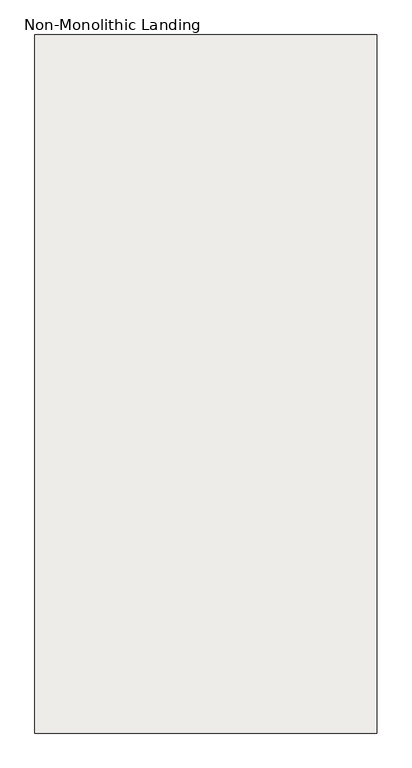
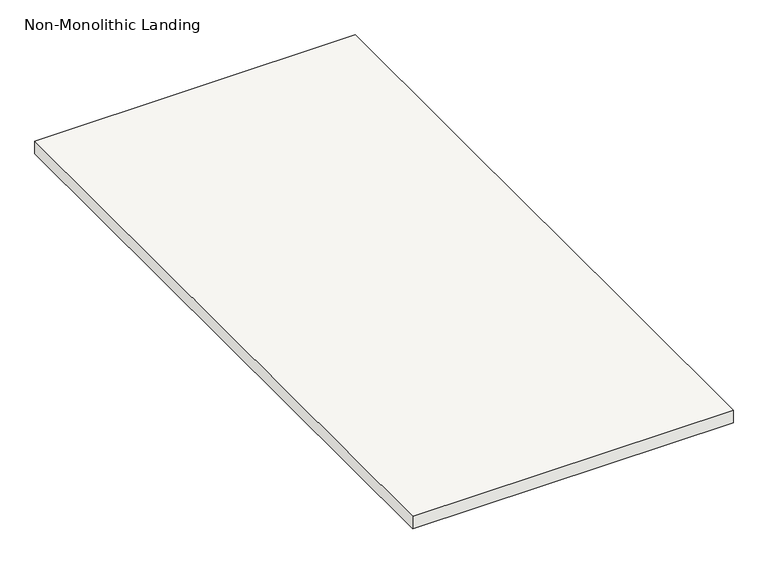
"""IFC4 building model written with IfcOpenShell, lengths in millimetres: slab geometry, Non-Monolithic Landing."""

import ifcopenshell
import ifcopenshell.guid

model = None  # the IFC model being written
_history = None  # IfcOwnerHistory: only IFC2X3 demands one
_inside = {}  # id of a spatial element -> (the spatial element, [elements in it])
_under = {}  # id of a project, library or spatial element -> (it, [spatial elements below it])
_declared = {}  # id of a project -> (the project, [libraries it declares])
_typed = {}  # id of a type object -> (the type object, [elements of that type])
_made_of = {}  # id of a material, layer set ... -> (it, [elements and type objects made of it])


def new_model(schema):
    """Start an empty IFC model of exactly this schema.

    Asked for "IFC4X3", IfcOpenShell would pick the latest addendum, in which some entities
    have other attributes; the version numbers below select the first issue.
    IFC2X3 requires an IfcOwnerHistory on every rooted entity: one is made here for all.
    """
    global model, _history
    if schema == "IFC4X3":
        model = ifcopenshell.file(schema_version=(4, 3, 0, 0))
    else:
        model = ifcopenshell.file(schema=schema)
    _inside.clear()
    _under.clear()
    _declared.clear()
    _typed.clear()
    _made_of.clear()
    _history = None
    if model.schema == "IFC2X3":
        org = make("IfcOrganization", Name="unknown")
        user = make(
            "IfcPersonAndOrganization",
            ThePerson=make("IfcPerson", FamilyName="unknown"),
            TheOrganization=org,
        )
        app = make(
            "IfcApplication",
            ApplicationDeveloper=org,
            Version="unknown",
            ApplicationFullName="unknown",
            ApplicationIdentifier="unknown",
        )
        _history = make(
            "IfcOwnerHistory",
            OwningUser=user,
            OwningApplication=app,
            ChangeAction="ADDED",
            CreationDate=0,
        )
    return model


def make(cls, **values):
    """One entity of the class cls with the attributes given. An attribute that is None is left unset."""
    return model.create_entity(
        cls, **{name: value for name, value in values.items() if value is not None}
    )


def rooted(cls, **values):
    """An entity with a GlobalId (a new one), such as an element, a storey or a relation."""
    return make(cls, GlobalId=ifcopenshell.guid.new(), OwnerHistory=_history, **values)


def si_unit(unit_type, name, prefix=None):
    """IfcSIUnit, for example si_unit("LENGTHUNIT", "METRE", prefix="MILLI")."""
    return make("IfcSIUnit", UnitType=unit_type, Prefix=prefix, Name=name)


def assignment(units):
    """IfcUnitAssignment: the units of a project."""
    return None if units is None else make("IfcUnitAssignment", Units=units)


def point(xyz):
    """IfcCartesianPoint."""
    return None if xyz is None else make("IfcCartesianPoint", Coordinates=xyz)


def direction(xyz):
    """IfcDirection."""
    return None if xyz is None else make("IfcDirection", DirectionRatios=xyz)


def frame(location, z_axis=None, x_axis=None):
    """IfcAxis2Placement3D, a coordinate frame: its origin and axes. An axis left out is left unset."""
    return make(
        "IfcAxis2Placement3D",
        Location=point(location),
        Axis=direction(z_axis),
        RefDirection=direction(x_axis),
    )


def origin():
    """The frame at (0, 0, 0) with its axes left unset."""
    return frame((0.0, 0.0, 0.0))


def place(relative_to, where):
    """IfcLocalPlacement: puts the frame where relative to a parent placement (None: the world)."""
    return make(
        "IfcLocalPlacement", PlacementRelTo=relative_to, RelativePlacement=where
    )


def context(
    kind, dimensions, precision=None, world=None, true_north=None, identifier=None
):
    """IfcGeometricRepresentationContext, for example the 3D "Model" context."""
    return make(
        "IfcGeometricRepresentationContext",
        ContextIdentifier=identifier,
        ContextType=kind,
        CoordinateSpaceDimension=dimensions,
        Precision=precision,
        WorldCoordinateSystem=world,
        TrueNorth=true_north,
    )


def project(units=None, contexts=None):
    """IfcProject with its units and contexts."""
    return rooted(
        "IfcProject",
        Name="project",
        RepresentationContexts=contexts,
        UnitsInContext=assignment(units),
    )


def spatial(cls, under=None, at=None, **own):
    """A site, building, storey or space (cls), placed at a placement, below another one or the project."""
    s = rooted(cls, ObjectPlacement=at, **own)
    if under is not None:
        _under.setdefault(under.id(), (under, []))[1].append(s)
    return s


def polyline(points):
    """IfcPolyline through the points."""
    return make("IfcPolyline", Points=[point(p) for p in points])


def outline(outer, holes=None, kind="AREA"):
    """IfcArbitraryClosedProfileDef: a profile drawn as a closed curve; with holes, ...WithVoids."""
    if holes is None:
        return make("IfcArbitraryClosedProfileDef", ProfileType=kind, OuterCurve=outer)
    return make(
        "IfcArbitraryProfileDefWithVoids",
        ProfileType=kind,
        OuterCurve=outer,
        InnerCurves=holes,
    )


def extrude(swept, where, along, depth):
    """IfcExtrudedAreaSolid: the profile swept, set in the frame where, extruded along a direction by depth."""
    return make(
        "IfcExtrudedAreaSolid",
        SweptArea=swept,
        Position=where,
        ExtrudedDirection=direction(along),
        Depth=depth,
    )


def shape(context_of_items, identifier, shape_type, items):
    """IfcShapeRepresentation: the items that make up one representation, for example the "Body"."""
    return make(
        "IfcShapeRepresentation",
        ContextOfItems=context_of_items,
        RepresentationIdentifier=identifier,
        RepresentationType=shape_type,
        Items=items,
    )


def source(mapping_origin, context_of_items, identifier, shape_type, items):
    """IfcRepresentationMap: a shape defined once, which mapped items show again and again."""
    return make(
        "IfcRepresentationMap",
        MappingOrigin=mapping_origin,
        MappedRepresentation=shape(context_of_items, identifier, shape_type, items),
    )


def transform(
    local_origin,
    x_axis=None,
    y_axis=None,
    z_axis=None,
    scale=None,
    scale2=None,
    scale3=None,
    uniform=True,
):
    """IfcCartesianTransformationOperator3D, or its non-uniform kind. x_axis, y_axis, z_axis: its Axis1, 2, 3."""
    if uniform:
        return make(
            "IfcCartesianTransformationOperator3D",
            Axis1=direction(x_axis),
            Axis2=direction(y_axis),
            LocalOrigin=point(local_origin),
            Scale=scale,
            Axis3=direction(z_axis),
        )
    return make(
        "IfcCartesianTransformationOperator3DnonUniform",
        Axis1=direction(x_axis),
        Axis2=direction(y_axis),
        LocalOrigin=point(local_origin),
        Scale=scale,
        Axis3=direction(z_axis),
        Scale2=scale2,
        Scale3=scale3,
    )


def mapped(mapping_source, mapping_target):
    """IfcMappedItem: shows the shape of a source again, moved by a transform."""
    return make(
        "IfcMappedItem", MappingSource=mapping_source, MappingTarget=mapping_target
    )


def made_of(thing, what):
    """Note that an element or type object is made of a material, layer set ...; save() writes the relation."""
    if what is not None:
        _made_of.setdefault(what.id(), (what, []))[1].append(thing)
    return thing


def element(
    cls,
    number,
    at=None,
    inside=None,
    cuts=None,
    type_object=None,
    material=None,
    context=None,
    identifier="Body",
    shape_type=None,
    held_by="IfcProductDefinitionShape",
    body=None,
    shapes=None,
    **own,
):
    """One element of the class cls, such as IfcWall. Its Tag is "e" and its number.

    at: its placement. inside: the storey or other place that contains it. cuts: it is an
    opening in that element (IfcRelVoidsElement). A single representation is given by context,
    identifier, shape_type and body (its items); several are given by shapes. held_by: the class
    of the entity that holds the representations. save() writes the other relations.
    """
    e = rooted(cls, Tag="e%d" % number, ObjectPlacement=at, **own)
    if body is not None:
        shapes = [shape(context, identifier, shape_type, body)]
    if shapes is not None:
        e.Representation = make(held_by, Representations=shapes)
    if inside is not None:
        _inside.setdefault(inside.id(), (inside, []))[1].append(e)
    if cuts is not None:
        rooted(
            "IfcRelVoidsElement", RelatingBuildingElement=cuts, RelatedOpeningElement=e
        )
    if type_object is not None:
        _typed.setdefault(type_object.id(), (type_object, []))[1].append(e)
    return made_of(e, material)


def aggregate(whole, parts):
    """IfcRelAggregates: a whole, such as a stair, and the parts it consists of."""
    return rooted("IfcRelAggregates", RelatingObject=whole, RelatedObjects=parts)


def save(model, path):
    """Write the relations noted so far, then the file.

    IfcRelAggregates (storeys below a building ...), IfcRelContainedInSpatialStructure (elements
    in a storey), IfcRelDefinesByType, IfcRelAssociatesMaterial and IfcRelDeclares: one each for
    every whole, place, type object, material and project.
    """
    for whole, parts in _under.values():
        aggregate(whole, parts)
    for where, things in _inside.values():
        rooted(
            "IfcRelContainedInSpatialStructure",
            RelatedElements=things,
            RelatingStructure=where,
        )
    for kind, things in _typed.values():
        rooted("IfcRelDefinesByType", RelatedObjects=things, RelatingType=kind)
    for what, things in _made_of.values():
        rooted("IfcRelAssociatesMaterial", RelatedObjects=things, RelatingMaterial=what)
    for by, libraries in _declared.values():
        rooted("IfcRelDeclares", RelatingContext=by, RelatedDefinitions=libraries)
    model.write(path)


def non_monolithic_landing_f0037221(model_context):
    return source(origin(), model_context, "Body", "SweptSolid", [
        extrude(outline(polyline([(-77958.5913038, 12142.1710387), (-79158.5913038, 12142.1710387), (-79158.5913038, 14592.1710387), (-77958.5913038, 14592.1710387), (-77958.5913038, 13392.1710387), (-77958.5913038, 13342.1710387), (-77958.5913038, 12142.1710387)])), frame((0.0, 0.0, 45105.0), z_axis=(0.0, 0.0, 1.0), x_axis=(1.0, 0.0, 0.0)), (0.0, 0.0, 1.0), 50.0),
    ])


if __name__ == "__main__":
    model = new_model("IFC4")
    model_context = context("Model", 3, world=origin())
    ifc_project = project(units=[si_unit("LENGTHUNIT", "METRE", prefix="MILLI")], contexts=[model_context])
    site = spatial("IfcSite", under=ifc_project)
    building = spatial("IfcBuilding", under=site)
    placement = place(None, origin())
    non_monolithic_landing_shape = non_monolithic_landing_f0037221(model_context)
    element("IfcSlab", 1, ObjectType="Non-Monolithic Landing", at=placement, inside=building, context=model_context, shape_type="MappedRepresentation", body=[
        mapped(non_monolithic_landing_shape, transform((0.0, 0.0, 0.0), x_axis=(1.0, 0.0, 0.0), y_axis=(0.0, 1.0, 0.0), z_axis=(0.0, 0.0, 1.0))),
    ])
    save(model, "model.ifc")
